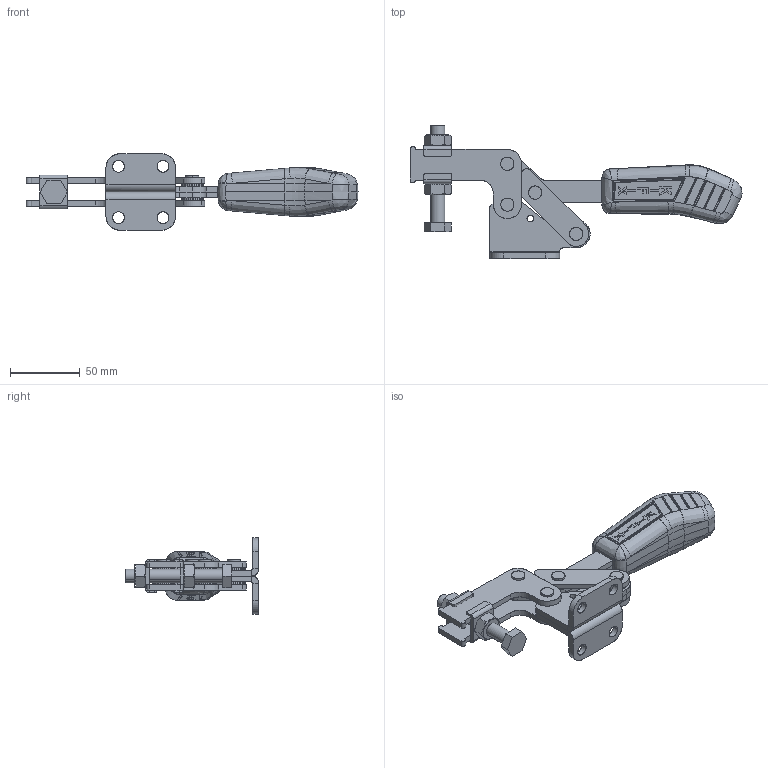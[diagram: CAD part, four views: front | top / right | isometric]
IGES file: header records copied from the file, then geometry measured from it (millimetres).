
Start section: SolidWorks IGES file using analytic representation for surfaces
Global section: file name: C:\Projetos\Grampos\KF-531\KF-531 DI\KF-531 DI.IGS; native system: SolidWorks 2013; preprocessor: SolidWorks 2013; author: Ricardo; date: 140818.112417; units: millimetre
Bounding box: 238.69 x 95.84 x 55 mm (x, y, z)
Surface area: 76879.9 mm2 (no closed solid volume)
Topology: 0 solids, 0 shells, 802 faces, 9424 edges, 9393 vertices
Faces by surface type: bspline 432, revolution 370
